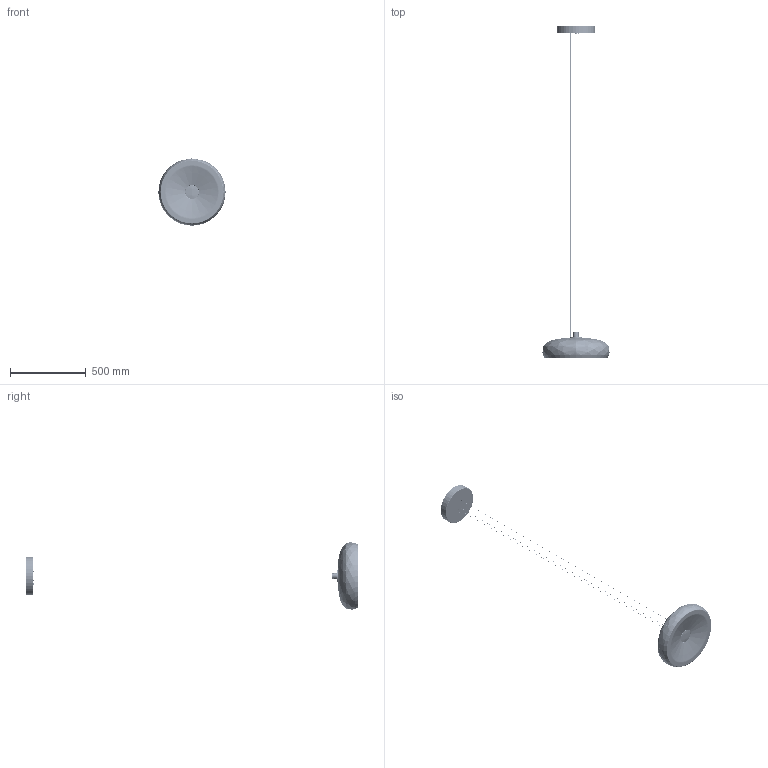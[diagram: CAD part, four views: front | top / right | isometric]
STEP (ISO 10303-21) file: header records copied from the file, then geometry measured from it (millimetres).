
FILE_DESCRIPTION(/* description */ (''),/* implementation_level */ '2;1');
FILE_NAME(/* name */ 'R:\Tecnico\_NEW TECNICO CLANN\PROGETTI DI SERIE\S20-006 PATRICK JOUIN\Studi\Project A\450\3D\AURELIA S45.stp',/* time_stamp */ '2021-09-06T12:17:02+02:00',/* author */ ('andrea.bortot'),/* organization */ (''),/* preprocessor_version */ 'ST-DEVELOPER v18.1',/* originating_system */ 'Autodesk Inventor 2020',/* authorisation */ '');
FILE_SCHEMA (('AUTOMOTIVE_DESIGN { 1 0 10303 214 3 1 1 }'));
Length unit declared in the file: millimetre
Products named in the file (51): 00456MP0LD0; 00456C187; ASSIEME GRUPPO LUCE; 00456C128; BLOCCACAVO STEAB 5922-3; DISTANZIATORE ESAGONALE MASCHIO-FEMMINA M4 12mm UD30 E4070 12 ELEKTRO
ZUBEROR; VITE TBEI M4X12 UNI7380 ZN NERA; VITE M4X6 TC ZINCATA DIN7985; 00456C134; 00456C184; 00456C105; ASSIEME DISSIPATORE TONDO; PIASTRA PORTA LED; DISSIPATORE X PIASTRA PORTA LED; COB CONNERCTOR BJB  47.360.1020.50; 01Z-R07-02; 01Z-R08-02; CLU028; VITE TSPEI M3X16 ZINCATA UNI5933; 00456C260; 00456C254 copia; INSERTO X PLASTICA M3 SPECIAL INSERT 862.0030.80; VITE TC M3X6 ZN DIN 7985; 00456C190; VITE TCBIC M4X8 UNI7687 DIN7985; Parte3; ASSIEME ROSONE DEFINITIVO APRILE 2021; 00456C152; 00456C173; BLOCCACAVO STEAB 5922-18 NERO; PASSACAVO STEAB 5104-0-5; MORSETTO 4P RIALZATO O-KORNER OK 433 - FV - H; FORCELLA DI MESSA A TERRA; OCCHIELLO NUDO PER VITE M3; RONDELLA DENTELLATA ESTERNA M4; ALIM.EL. DIM LED TCI 125400; MORSETTIERA 6P O-KORNER OK 433-FV-H RIALZ.; DISTANZIATORE STEAB 5015-4-5; VITE TSPC M3X20 ZN UNI7688; AS 1427 - M4 x 12(5) ...
Assembly tree (115 placements, depth 4):
  00456MP0LD0
    00456C187
    ASSIEME GRUPPO LUCE
      00456C128
      CLU028
      COB CONNERCTOR BJB  47.360.1020.50
        01Z-R07-02
        01Z-R08-02
      VITE TC M3X6 ZN DIN 7985  x2
      BLOCCACAVO STEAB 5922-3
      DISTANZIATORE ESAGONALE MASCHIO-FEMMINA M4 12mm UD30 E4070 12 ELEKTRO
ZUBEROR  x2
      VITE TBEI M4X12 UNI7380 ZN NERA  x2
    VITE M4X6 TC ZINCATA DIN7985  x3
    00456C134
    00456C184
    00456C105
    ASSIEME DISSIPATORE TONDO
      PIASTRA PORTA LED
      DISSIPATORE X PIASTRA PORTA LED
      COB CONNERCTOR BJB  47.360.1020.50
        01Z-R07-02
        01Z-R08-02
      CLU028
      VITE TC M3X6 ZN DIN 7985  x2
      VITE TSPEI M3X16 ZINCATA UNI5933  x2
    00456C260
      00456C254 copia
      INSERTO X PLASTICA M3 SPECIAL INSERT 862.0030.80  x2
    VITE TC M3X6 ZN DIN 7985  x2
    00456C190
    VITE TCBIC M4X8 UNI7687 DIN7985  x2
    Parte3
    ASSIEME ROSONE DEFINITIVO APRILE 2021
      00456C152
      MORSETTO 4P RIALZATO O-KORNER OK 433 - FV - H  x2
      00456C173
      BLOCCACAVO STEAB 5922-18 NERO  x2
      PASSACAVO STEAB 5104-0-5
      DISTANZIATORE STEAB 5015-4-5  x6
      FORCELLA DI MESSA A TERRA
      OCCHIELLO NUDO PER VITE M3  x4
      RONDELLA DENTELLATA ESTERNA M3 UNI8842A  x8
      RONDELLA DENTELLATA ESTERNA M4  x2
      DADO M3 S2 M.00.06.19 UNI5588 DIN934  x9
      DADO 4MA  x7
      ALIM.EL. DIM LED TCI 125400  x2
      MORSETTIERA 6P O-KORNER OK 433-FV-H RIALZ.
      VITE TSPC M3X20 ZN UNI7688  x5
      AS 1427 - M4 x 12(5)  x4
      00456C195
      DADO ZINCATO M8X1 H3  x4
      GRIPPER M8X1 CON CILINDRETTO SICUREZZA  x3
      DISTANZIALE ACCIAIO ZINCATO FIL.INT.M4 L40MM F  x3
      VITE TBEI M4X10 ACC.ZINC.NERO UNI7380  x3
      MJ_HC_INDIP 3D
    00456C198
    CAVO ACC. INOX 1X49 L 2000MM + FIN D.3X3  x3
Bounding box: 443.02 x 2187.5 x 443.8 mm (x, y, z)
Volume: 1897820.5 mm3; surface area: 1834008.8 mm2
Topology: 126 solids, 133 shells, 10821 faces, 29224 edges, 18977 vertices
Faces by surface type: plane 5456, cylinder 2762, bspline 1465, cone 702, torus 253, sphere 183
Full cylindrical faces by diameter (mm): 1 x3, 1.15 x8, 1.5 x11, 1.8 x3, 2 x16, 2.25 x4, 2.3 x8, 2.459 x17, 2.693 x5, 2.75 x6, 2.9 x4, 3 x43, 3.1 x2, 3.2 x16, 3.242 x17, 3.3 x7, 3.4 x2, 3.5 x37, 3.571 x4, 3.6 x4, 3.65 x2, 3.9 x28, 4 x30, 4.3 x8, 4.5 x24, 4.6 x6, 5 x5, 5.5 x11, 5.6 x2, 5.7 x4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
Entity records: 220678 total; most frequent: CARTESIAN_POINT 76392, ORIENTED_EDGE 29336, DIRECTION 27807, EDGE_CURVE 15031, VERTEX_POINT 9904, AXIS2_PLACEMENT_3D 9577, LINE 8653, VECTOR 8653
